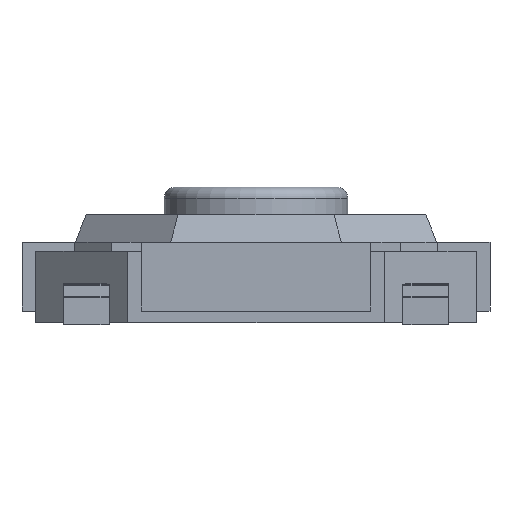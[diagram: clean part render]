
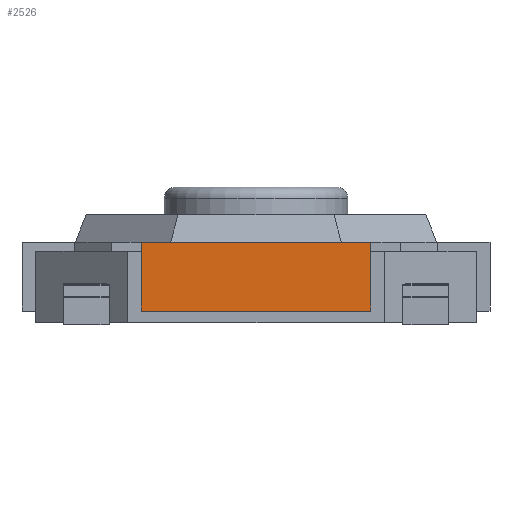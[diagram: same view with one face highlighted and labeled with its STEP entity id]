
A CAD part, left-side view. The second image highlights one B-rep face of the part: STEP entity #2526.
In plain terms, the highlighted planar face has unit normal (-1, 0, 0).
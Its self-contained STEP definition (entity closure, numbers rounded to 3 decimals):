
#763 = PLANE('',#764);
#764 = AXIS2_PLACEMENT_3D('',#765,#766,#767);
#765 = CARTESIAN_POINT('',(0.,0.,0.9));
#766 = DIRECTION('',(-0.,-0.,1.));
#767 = DIRECTION('',(-1.,0.,0.));
#817 = PLANE('',#818);
#818 = AXIS2_PLACEMENT_3D('',#819,#820,#821);
#819 = CARTESIAN_POINT('',(0.,0.,0.15)
  );
#820 = DIRECTION('',(-0.,-0.,1.));
#821 = DIRECTION('',(-1.,0.,0.));
#1402 = VERTEX_POINT('',#1403);
#1403 = CARTESIAN_POINT('',(-2.55,-1.25,0.15));
#1417 = PLANE('',#1418);
#1418 = AXIS2_PLACEMENT_3D('',#1419,#1420,#1421);
#1419 = CARTESIAN_POINT('',(-1.975,-1.25,0.15));
#1420 = DIRECTION('',(-0.,1.,-0.));
#1421 = DIRECTION('',(1.,0.,-0.));
#1429 = EDGE_CURVE('',#1402,#1430,#1432,.T.);
#1430 = VERTEX_POINT('',#1431);
#1431 = CARTESIAN_POINT('',(-2.55,1.25,0.15));
#1432 = SURFACE_CURVE('',#1433,(#1437,#1444),.PCURVE_S1.);
#1433 = LINE('',#1434,#1435);
#1434 = CARTESIAN_POINT('',(-2.55,-1.25,0.15));
#1435 = VECTOR('',#1436,1.);
#1436 = DIRECTION('',(-0.,1.,-0.));
#1437 = PCURVE('',#817,#1438);
#1438 = DEFINITIONAL_REPRESENTATION('',(#1439),#1443);
#1439 = LINE('',#1440,#1441);
#1440 = CARTESIAN_POINT('',(2.55,1.25));
#1441 = VECTOR('',#1442,1.);
#1442 = DIRECTION('',(-0.,-1.));
#1443 = ( GEOMETRIC_REPRESENTATION_CONTEXT(2) 
PARAMETRIC_REPRESENTATION_CONTEXT() REPRESENTATION_CONTEXT('2D SPACE',''
  ) );
#1444 = PCURVE('',#1445,#1450);
#1445 = PLANE('',#1446);
#1446 = AXIS2_PLACEMENT_3D('',#1447,#1448,#1449);
#1447 = CARTESIAN_POINT('',(-2.55,-1.25,0.15));
#1448 = DIRECTION('',(1.,-0.,-0.));
#1449 = DIRECTION('',(0.,-1.,0.));
#1450 = DEFINITIONAL_REPRESENTATION('',(#1451),#1455);
#1451 = LINE('',#1452,#1453);
#1452 = CARTESIAN_POINT('',(-0.,-0.));
#1453 = VECTOR('',#1454,1.);
#1454 = DIRECTION('',(-1.,0.));
#1455 = ( GEOMETRIC_REPRESENTATION_CONTEXT(2) 
PARAMETRIC_REPRESENTATION_CONTEXT() REPRESENTATION_CONTEXT('2D SPACE',''
  ) );
#1473 = PLANE('',#1474);
#1474 = AXIS2_PLACEMENT_3D('',#1475,#1476,#1477);
#1475 = CARTESIAN_POINT('',(-2.55,1.25,0.15));
#1476 = DIRECTION('',(-0.,-1.,-0.));
#1477 = DIRECTION('',(-1.,0.,0.));
#1949 = VERTEX_POINT('',#1950);
#1950 = CARTESIAN_POINT('',(-2.55,-1.25,0.9));
#1971 = EDGE_CURVE('',#1949,#1972,#1974,.T.);
#1972 = VERTEX_POINT('',#1973);
#1973 = CARTESIAN_POINT('',(-2.55,1.25,0.9));
#1974 = SURFACE_CURVE('',#1975,(#1979,#1986),.PCURVE_S1.);
#1975 = LINE('',#1976,#1977);
#1976 = CARTESIAN_POINT('',(-2.55,-1.25,0.9));
#1977 = VECTOR('',#1978,1.);
#1978 = DIRECTION('',(-0.,1.,-0.));
#1979 = PCURVE('',#763,#1980);
#1980 = DEFINITIONAL_REPRESENTATION('',(#1981),#1985);
#1981 = LINE('',#1982,#1983);
#1982 = CARTESIAN_POINT('',(2.55,1.25));
#1983 = VECTOR('',#1984,1.);
#1984 = DIRECTION('',(-0.,-1.));
#1985 = ( GEOMETRIC_REPRESENTATION_CONTEXT(2) 
PARAMETRIC_REPRESENTATION_CONTEXT() REPRESENTATION_CONTEXT('2D SPACE',''
  ) );
#1986 = PCURVE('',#1445,#1987);
#1987 = DEFINITIONAL_REPRESENTATION('',(#1988),#1992);
#1988 = LINE('',#1989,#1990);
#1989 = CARTESIAN_POINT('',(-0.,-0.75));
#1990 = VECTOR('',#1991,1.);
#1991 = DIRECTION('',(-1.,0.));
#1992 = ( GEOMETRIC_REPRESENTATION_CONTEXT(2) 
PARAMETRIC_REPRESENTATION_CONTEXT() REPRESENTATION_CONTEXT('2D SPACE',''
  ) );
#2476 = EDGE_CURVE('',#1430,#1972,#2477,.T.);
#2477 = SURFACE_CURVE('',#2478,(#2482,#2489),.PCURVE_S1.);
#2478 = LINE('',#2479,#2480);
#2479 = CARTESIAN_POINT('',(-2.55,1.25,0.15));
#2480 = VECTOR('',#2481,1.);
#2481 = DIRECTION('',(-0.,-0.,1.));
#2482 = PCURVE('',#1473,#2483);
#2483 = DEFINITIONAL_REPRESENTATION('',(#2484),#2488);
#2484 = LINE('',#2485,#2486);
#2485 = CARTESIAN_POINT('',(-0.,0.));
#2486 = VECTOR('',#2487,1.);
#2487 = DIRECTION('',(-0.,-1.));
#2488 = ( GEOMETRIC_REPRESENTATION_CONTEXT(2) 
PARAMETRIC_REPRESENTATION_CONTEXT() REPRESENTATION_CONTEXT('2D SPACE',''
  ) );
#2489 = PCURVE('',#1445,#2490);
#2490 = DEFINITIONAL_REPRESENTATION('',(#2491),#2495);
#2491 = LINE('',#2492,#2493);
#2492 = CARTESIAN_POINT('',(-2.5,-0.));
#2493 = VECTOR('',#2494,1.);
#2494 = DIRECTION('',(-0.,-1.));
#2495 = ( GEOMETRIC_REPRESENTATION_CONTEXT(2) 
PARAMETRIC_REPRESENTATION_CONTEXT() REPRESENTATION_CONTEXT('2D SPACE',''
  ) );
#2526 = ADVANCED_FACE('',(#2527),#1445,.F.);
#2527 = FACE_BOUND('',#2528,.T.);
#2528 = EDGE_LOOP('',(#2529,#2550,#2551,#2552));
#2529 = ORIENTED_EDGE('',*,*,#2530,.T.);
#2530 = EDGE_CURVE('',#1402,#1949,#2531,.T.);
#2531 = SURFACE_CURVE('',#2532,(#2536,#2543),.PCURVE_S1.);
#2532 = LINE('',#2533,#2534);
#2533 = CARTESIAN_POINT('',(-2.55,-1.25,0.15));
#2534 = VECTOR('',#2535,1.);
#2535 = DIRECTION('',(-0.,-0.,1.));
#2536 = PCURVE('',#1445,#2537);
#2537 = DEFINITIONAL_REPRESENTATION('',(#2538),#2542);
#2538 = LINE('',#2539,#2540);
#2539 = CARTESIAN_POINT('',(-0.,-0.));
#2540 = VECTOR('',#2541,1.);
#2541 = DIRECTION('',(-0.,-1.));
#2542 = ( GEOMETRIC_REPRESENTATION_CONTEXT(2) 
PARAMETRIC_REPRESENTATION_CONTEXT() REPRESENTATION_CONTEXT('2D SPACE',''
  ) );
#2543 = PCURVE('',#1417,#2544);
#2544 = DEFINITIONAL_REPRESENTATION('',(#2545),#2549);
#2545 = LINE('',#2546,#2547);
#2546 = CARTESIAN_POINT('',(-0.575,0.));
#2547 = VECTOR('',#2548,1.);
#2548 = DIRECTION('',(-0.,-1.));
#2549 = ( GEOMETRIC_REPRESENTATION_CONTEXT(2) 
PARAMETRIC_REPRESENTATION_CONTEXT() REPRESENTATION_CONTEXT('2D SPACE',''
  ) );
#2550 = ORIENTED_EDGE('',*,*,#1971,.T.);
#2551 = ORIENTED_EDGE('',*,*,#2476,.F.);
#2552 = ORIENTED_EDGE('',*,*,#1429,.F.);
